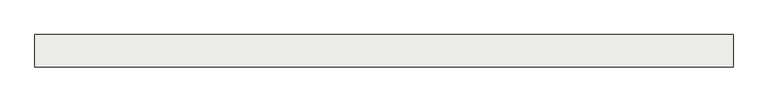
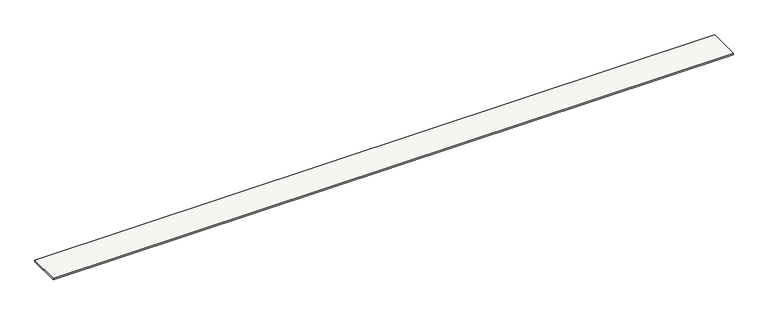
"""IFC4 building model written with IfcOpenShell, lengths in millimetres: slab geometry, Sol-02 - Tablette bois 2cm."""

from ifc_helpers import new_model, si_unit, origin, origin_with_axes, place, context, project, spatial, polyline, outline, extrude, source, transform, mapped, element, save


def slab_e251bf48(model_context):
    return source(origin(), model_context, "Body", "SweptSolid", [
        extrude(outline(polyline([(24240.0, 11002.3446595), (16694.9983594, 11002.3446595), (16694.9983594, 11352.3446595), (24240.0, 11352.3446595), (24240.0, 11002.3446595)])), origin_with_axes(), (0.0, 0.0, 1.0), 20.0),
    ])


if __name__ == "__main__":
    model = new_model("IFC4")
    model_context = context("Model", 3, world=origin())
    ifc_project = project(units=[si_unit("LENGTHUNIT", "METRE", prefix="MILLI")], contexts=[model_context])
    site = spatial("IfcSite", under=ifc_project)
    building = spatial("IfcBuilding", under=site)
    placement = place(None, origin())
    slab_shape = slab_e251bf48(model_context)
    element("IfcSlab", 1, ObjectType="Sol-02 - Tablette bois 2cm", at=placement, inside=building, context=model_context, shape_type="MappedRepresentation", body=[
        mapped(slab_shape, transform((0.0, 0.0, 0.0), x_axis=(1.0, 0.0, 0.0), y_axis=(0.0, 1.0, 0.0), z_axis=(0.0, 0.0, 1.0))),
    ])
    save(model, "model.ifc")
